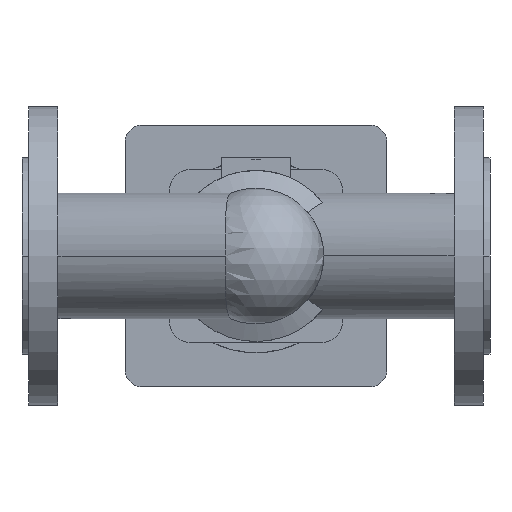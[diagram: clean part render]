
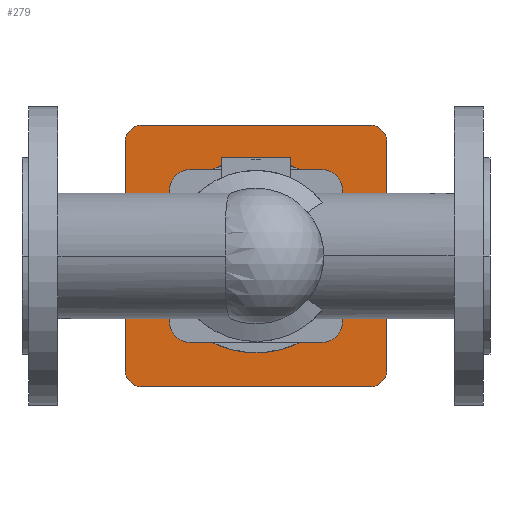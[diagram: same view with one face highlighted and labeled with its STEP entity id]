
A CAD part, front view. The second image highlights one B-rep face of the part: STEP entity #279.
In plain terms, the highlighted planar face has unit normal (0, -1, 0).
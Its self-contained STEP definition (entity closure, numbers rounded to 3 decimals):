
#279 = ADVANCED_FACE( '', ( #667, #668 ), #669, .F. );
#667 = FACE_OUTER_BOUND( '', #1081, .T. );
#668 = FACE_BOUND( '', #1082, .T. );
#669 = PLANE( '', #1083 );
#1081 = EDGE_LOOP( '', ( #2372, #2373, #2374, #2375, #2376, #2377, #2378, #2379 ) );
#1082 = EDGE_LOOP( '', ( #2380, #2381 ) );
#1083 = AXIS2_PLACEMENT_3D( '', #2382, #2383, #2384 );
#2372 = ORIENTED_EDGE( '', *, *, #2949, .F. );
#2373 = ORIENTED_EDGE( '', *, *, #2950, .F. );
#2374 = ORIENTED_EDGE( '', *, *, #2951, .F. );
#2375 = ORIENTED_EDGE( '', *, *, #2952, .F. );
#2376 = ORIENTED_EDGE( '', *, *, #2953, .F. );
#2377 = ORIENTED_EDGE( '', *, *, #2954, .F. );
#2378 = ORIENTED_EDGE( '', *, *, #2955, .F. );
#2379 = ORIENTED_EDGE( '', *, *, #2956, .F. );
#2380 = ORIENTED_EDGE( '', *, *, #2864, .F. );
#2381 = ORIENTED_EDGE( '', *, *, #2957, .F. );
#2382 = CARTESIAN_POINT( '', ( 145., 432., 0. ) );
#2383 = DIRECTION( '', ( 0., 1., 0. ) );
#2384 = DIRECTION( '', ( 0., 0., 1. ) );
#2864 = EDGE_CURVE( '', #3519, #3522, #3523, .T. );
#2949 = EDGE_CURVE( '', #3666, #3667, #3668, .T. );
#2950 = EDGE_CURVE( '', #3669, #3666, #3670, .T. );
#2951 = EDGE_CURVE( '', #3671, #3669, #3672, .T. );
#2952 = EDGE_CURVE( '', #3673, #3671, #3674, .T. );
#2953 = EDGE_CURVE( '', #3675, #3673, #3676, .T. );
#2954 = EDGE_CURVE( '', #3677, #3675, #3678, .T. );
#2955 = EDGE_CURVE( '', #3679, #3677, #3680, .T. );
#2956 = EDGE_CURVE( '', #3667, #3679, #3681, .T. );
#2957 = EDGE_CURVE( '', #3522, #3519, #3682, .T. );
#3519 = VERTEX_POINT( '', #4932 );
#3522 = VERTEX_POINT( '', #4936 );
#3523 = CIRCLE( '', #4937, 40. );
#3666 = VERTEX_POINT( '', #5135 );
#3667 = VERTEX_POINT( '', #5136 );
#3668 = CIRCLE( '', #5137, 10. );
#3669 = VERTEX_POINT( '', #5138 );
#3670 = LINE( '', #5139, #5140 );
#3671 = VERTEX_POINT( '', #5141 );
#3672 = CIRCLE( '', #5142, 10. );
#3673 = VERTEX_POINT( '', #5143 );
#3674 = LINE( '', #5144, #5145 );
#3675 = VERTEX_POINT( '', #5146 );
#3676 = CIRCLE( '', #5147, 10. );
#3677 = VERTEX_POINT( '', #5148 );
#3678 = LINE( '', #5149, #5150 );
#3679 = VERTEX_POINT( '', #5151 );
#3680 = CIRCLE( '', #5152, 10. );
#3681 = LINE( '', #5153, #5154 );
#3682 = CIRCLE( '', #5155, 40. );
#4932 = CARTESIAN_POINT( '', ( 105., 432., 0. ) );
#4936 = CARTESIAN_POINT( '', ( 185., 432., 0. ) );
#4937 = AXIS2_PLACEMENT_3D( '', #5822, #5823, #5824 );
#5135 = CARTESIAN_POINT( '', ( 64., 432., 71. ) );
#5136 = CARTESIAN_POINT( '', ( 74., 432., 81. ) );
#5137 = AXIS2_PLACEMENT_3D( '', #5967, #5968, #5969 );
#5138 = CARTESIAN_POINT( '', ( 64., 432., -71. ) );
#5139 = CARTESIAN_POINT( '', ( 64., 432., -71. ) );
#5140 = VECTOR( '', #5970, 1. );
#5141 = CARTESIAN_POINT( '', ( 74., 432., -81. ) );
#5142 = AXIS2_PLACEMENT_3D( '', #5971, #5972, #5973 );
#5143 = CARTESIAN_POINT( '', ( 216., 432., -81. ) );
#5144 = CARTESIAN_POINT( '', ( 216., 432., -81. ) );
#5145 = VECTOR( '', #5974, 1. );
#5146 = CARTESIAN_POINT( '', ( 226., 432., -71. ) );
#5147 = AXIS2_PLACEMENT_3D( '', #5975, #5976, #5977 );
#5148 = CARTESIAN_POINT( '', ( 226., 432., 71. ) );
#5149 = CARTESIAN_POINT( '', ( 226., 432., 71. ) );
#5150 = VECTOR( '', #5978, 1. );
#5151 = CARTESIAN_POINT( '', ( 216., 432., 81. ) );
#5152 = AXIS2_PLACEMENT_3D( '', #5979, #5980, #5981 );
#5153 = CARTESIAN_POINT( '', ( 74., 432., 81. ) );
#5154 = VECTOR( '', #5982, 1. );
#5155 = AXIS2_PLACEMENT_3D( '', #5983, #5984, #5985 );
#5822 = CARTESIAN_POINT( '', ( 145., 432., 0. ) );
#5823 = DIRECTION( '', ( 0., -1., 0. ) );
#5824 = DIRECTION( '', ( -1., 0., 0. ) );
#5967 = CARTESIAN_POINT( '', ( 74., 432., 71. ) );
#5968 = DIRECTION( '', ( 0., 1., 0. ) );
#5969 = DIRECTION( '', ( -1., 0., 0. ) );
#5970 = DIRECTION( '', ( 0., 0., 1. ) );
#5971 = CARTESIAN_POINT( '', ( 74., 432., -71. ) );
#5972 = DIRECTION( '', ( 0., 1., 0. ) );
#5973 = DIRECTION( '', ( 0., 0., -1. ) );
#5974 = DIRECTION( '', ( -1., 0., 0. ) );
#5975 = CARTESIAN_POINT( '', ( 216., 432., -71. ) );
#5976 = DIRECTION( '', ( 0., 1., 0. ) );
#5977 = DIRECTION( '', ( 1., 0., 0. ) );
#5978 = DIRECTION( '', ( 0., 0., -1. ) );
#5979 = CARTESIAN_POINT( '', ( 216., 432., 71. ) );
#5980 = DIRECTION( '', ( 0., 1., 0. ) );
#5981 = DIRECTION( '', ( 0., 0., 1. ) );
#5982 = DIRECTION( '', ( 1., 0., 0. ) );
#5983 = CARTESIAN_POINT( '', ( 145., 432., 0. ) );
#5984 = DIRECTION( '', ( 0., -1., 0. ) );
#5985 = DIRECTION( '', ( -1., 0., 0. ) );
